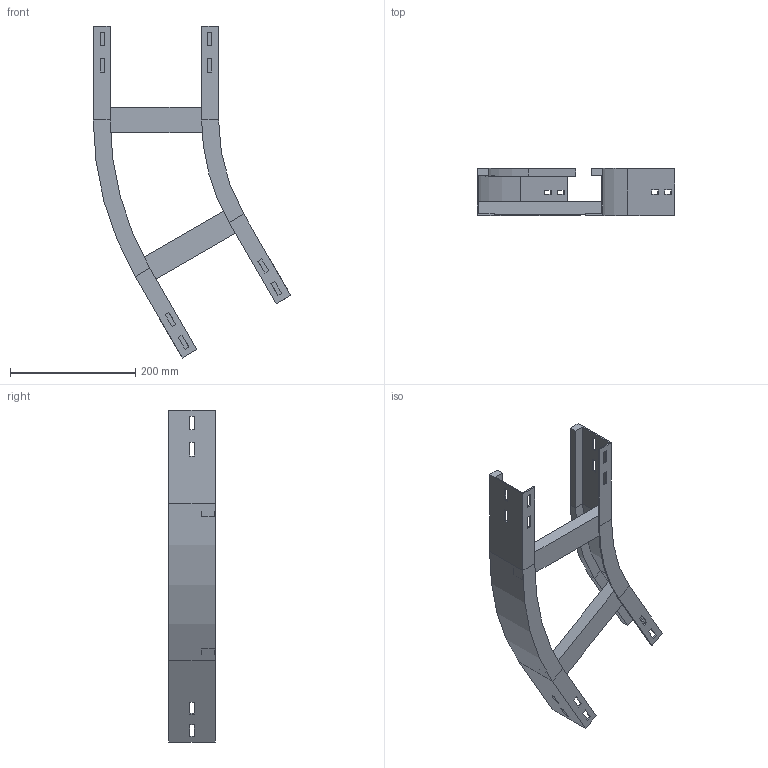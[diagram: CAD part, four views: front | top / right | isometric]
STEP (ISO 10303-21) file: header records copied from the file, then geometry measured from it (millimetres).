
FILE_DESCRIPTION (( 'STEP AP214' ), '1' );
FILE_NAME ('A2_12B3C200.step', '2025-02-21T15:10:32', ( '' ), ( '' ), 'SwSTEP 2.0', 'SolidWorks 2023', '' );
FILE_SCHEMA (( 'AUTOMOTIVE_DESIGN' ));
Length unit declared in the file: millimetre
Products named in the file (4): A2_12B3C200; A2_LONGH.INTERNO 30°_H75_R300; TRAVERSINO_200; A2_LONGH.ESTERNO 30°_H75_R300+200
Assembly tree (4 placements, depth 2):
  A2_12B3C200
    A2_LONGH.INTERNO 30°_H75_R300
    A2_LONGH.ESTERNO 30°_H75_R300+200
    TRAVERSINO_200  x2
Bounding box: 315.19 x 75 x 529.9 mm (x, y, z)
Volume: 711992.6 mm3; surface area: 289623.4 mm2
Topology: 4 solids, 4 shells, 128 faces, 328 edges, 208 vertices
Faces by surface type: plane 120, cylinder 8
Entity records: 3813 total; most frequent: CARTESIAN_POINT 645, ORIENTED_EDGE 632, DIRECTION 590, EDGE_CURVE 316, LINE 300, VECTOR 300, VERTEX_POINT 200, EDGE_LOOP 154
